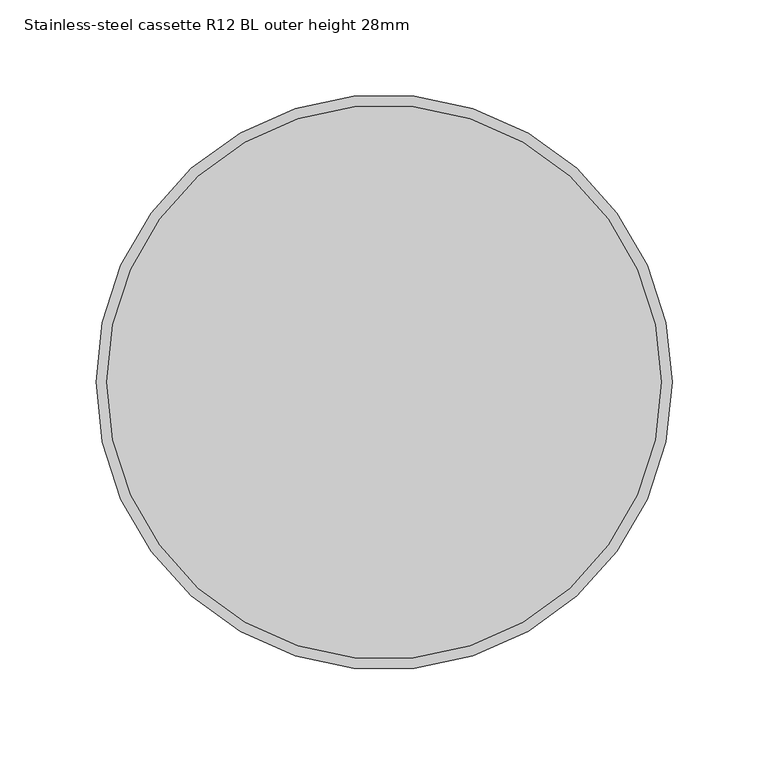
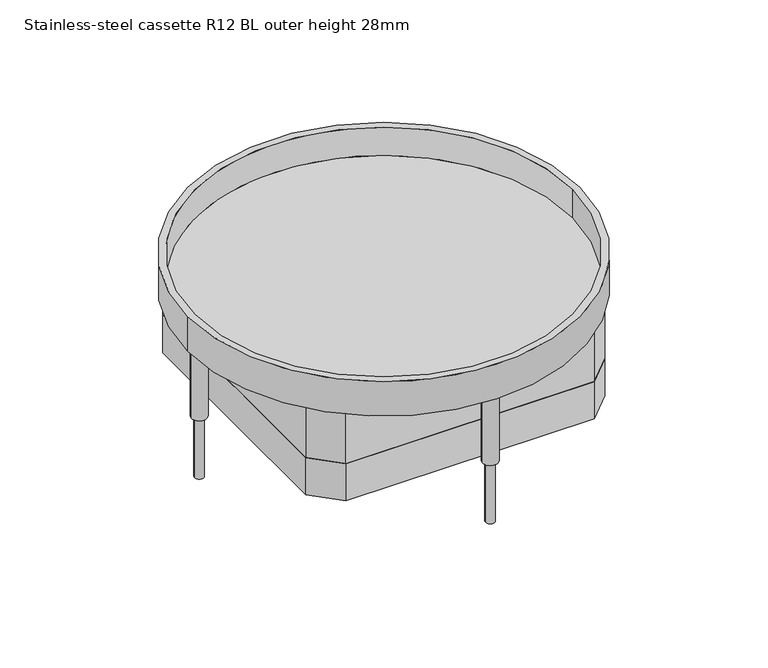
"""IFC4 building model written with IfcOpenShell, lengths in millimetres: proxy geometry, Electrical_Installation_Hager_VE-EE_EKR-Height-adjustable-stainless-steel-cassette-blank-round-for-damp-cleaned-floors : Stainless-steel cassette R12 BL outer height 28mm."""

from ifc_helpers import new_model, si_unit, point, frame, frame_2d, origin, place, context, project, spatial, polyline, circle_curve, trimmed, segment, composite_curve, outline, extrude, source, transform, mapped, element, save
from ifc_brep_helpers import plane_surface, cylinder_surface, revolved_surface, advanced_brep


def stainless_steel_cassette_r12_bl_outer_height_28mm_40ef087e(model_context):
    return source(origin(), model_context, "Body", "SolidModel", [
        extrude(outline(polyline([(-114.5, -94.9818914), (-114.5, 94.9818914), (-94.9818914, 114.5), (94.9818914, 114.5), (114.5, 94.9818914), (114.5, -94.9818914), (94.9818914, -114.5), (-94.9818914, -114.5), (-114.5, -94.9818914)]), holes=[polyline([(93.8602374, 111.5), (-93.8602374, 111.5), (-111.5, 93.8602374), (-111.5, -93.8602374), (-93.8602374, -111.5), (93.8602374, -111.5), (111.5, -93.8602374), (111.5, 93.8602374), (93.8602374, 111.5)])]), frame((0.0, 0.0, -96.9281369), z_axis=(0.0, 0.0, 1.0), x_axis=(1.0, 0.0, 0.0)), (0.0, 0.0, 1.0), 30.0),
        extrude(outline(composite_curve([segment(trimmed(circle_curve(frame_2d((-141.3, 0.0)), 3.5), [point((-144.8, 0.0))], [point((-137.8, 0.0))], False, "CARTESIAN"), True, "CONTINUOUS"), segment(trimmed(circle_curve(frame_2d((-141.3, 0.0)), 3.5), [point((-137.8, 0.0))], [point((-144.8, 0.0))], False, "CARTESIAN"), True, "CONTINUOUS")], self_intersect=False)), frame((0.0, 0.0, -130.0), z_axis=(0.0, 0.0, 1.0), x_axis=(1.0, 0.0, 0.0)), (0.0, 0.0, 1.0), 104.011943),
        extrude(outline(composite_curve([segment(trimmed(circle_curve(frame_2d((0.0, 141.3)), 3.5), [point((-3.5, 141.3))], [point((3.5, 141.3))], False, "CARTESIAN"), True, "CONTINUOUS"), segment(trimmed(circle_curve(frame_2d((0.0, 141.3)), 3.5), [point((3.5, 141.3))], [point((-3.5, 141.3))], False, "CARTESIAN"), True, "CONTINUOUS")], self_intersect=False)), frame((0.0, 0.0, -130.0), z_axis=(0.0, 0.0, 1.0), x_axis=(1.0, 0.0, 0.0)), (0.0, 0.0, 1.0), 104.011943),
        extrude(outline(composite_curve([segment(trimmed(circle_curve(frame_2d((141.3, 0.0)), 3.548869), [point((137.751131, 0.0))], [point((144.848869, 0.0))], False, "CARTESIAN"), True, "CONTINUOUS"), segment(trimmed(circle_curve(frame_2d((141.3, 0.0)), 3.548869), [point((144.848869, 0.0))], [point((137.751131, 0.0))], False, "CARTESIAN"), True, "CONTINUOUS")], self_intersect=False)), frame((0.0, 0.0, -130.0), z_axis=(0.0, 0.0, 1.0), x_axis=(1.0, 0.0, 0.0)), (0.0, 0.0, 1.0), 104.011943),
        extrude(outline(composite_curve([segment(trimmed(circle_curve(frame_2d((0.0, -141.3)), 3.5), [point((-3.5, -141.3))], [point((3.5, -141.3))], False, "CARTESIAN"), True, "CONTINUOUS"), segment(trimmed(circle_curve(frame_2d((0.0, -141.3)), 3.5), [point((3.5, -141.3))], [point((-3.5, -141.3))], False, "CARTESIAN"), True, "CONTINUOUS")], self_intersect=False)), frame((0.0, 0.0, -130.0), z_axis=(0.0, 0.0, 1.0), x_axis=(1.0, 0.0, 0.0)), (0.0, 0.0, 1.0), 104.011943),
        advanced_brep(
        [(144.5, 0.0, -20.988057), (-144.5, 0.0, -20.988057), (-150.0, 0.0, -25.988057), (150.0, 0.0, -25.988057), (-150.0, 0.0, 2.011943), (150.0, 0.0, 2.011943), (-144.5, 0.0, 2.011943), (144.5, 0.0, 2.011943)],
        [
            (0, 1, circle_curve(frame((0.0, 0.0, -20.988057), z_axis=(0.0, 0.0, 1.0), x_axis=(1.0, 0.0, 0.0)), 144.5)),
            (1, 0, circle_curve(frame((0.0, 0.0, -20.988057), z_axis=(0.0, 0.0, 1.0), x_axis=(1.0, 0.0, 0.0)), 144.5)),
            (2, 3, circle_curve(frame((0.0, 0.0, -25.988057), z_axis=(0.0, 0.0, -1.0), x_axis=(1.0, 0.0, 0.0)), 150.0)),
            (3, 2, circle_curve(frame((0.0, 0.0, -25.988057), z_axis=(0.0, 0.0, -1.0), x_axis=(1.0, 0.0, 0.0)), 150.0)),
            (4, 5, circle_curve(frame((0.0, 0.0, 2.011943), z_axis=(0.0, 0.0, 1.0), x_axis=(1.0, 0.0, 0.0)), 150.0)),
            (5, 4, circle_curve(frame((0.0, 0.0, 2.011943), z_axis=(0.0, 0.0, 1.0), x_axis=(1.0, 0.0, 0.0)), 150.0)),
            (6, 7, circle_curve(frame((0.0, 0.0, 2.011943), z_axis=(0.0, 0.0, -1.0), x_axis=(1.0, 0.0, 0.0)), 144.5)),
            (7, 6, circle_curve(frame((0.0, 0.0, 2.011943), z_axis=(0.0, 0.0, -1.0), x_axis=(1.0, 0.0, 0.0)), 144.5)),
            (4, 2),
            (3, 5),
            (6, 1),
            (0, 7),
        ],
        [
            plane_surface(frame((144.5, 0.0, -20.988057), z_axis=(0.0, 0.0, 1.0), x_axis=(0.0, 1.0, 0.0))),
            plane_surface(frame((144.5, 0.0, -25.988057), z_axis=(0.0, 0.0, -1.0), x_axis=(0.0, -1.0, 0.0))),
            plane_surface(frame((150.0, 0.0, 2.011943), z_axis=(0.0, 0.0, 1.0), x_axis=(0.0, 1.0, 0.0))),
            cylinder_surface(frame((0.0, 0.0, -25.988057), z_axis=(0.0, 0.0, 1.0), x_axis=(1.0, 0.0, 0.0)), 150.0),
            revolved_surface(polyline([(144.5, 0.0, -20.988057), (144.5, 0.0, 2.011943)]), (0.0, 0.0, 0.0), (0.0, 0.0, -1.0)),
        ],
        [
            (0, [[1, 2]]),
            (1, [[3, 4]]),
            (2, [[5, 6], [7, 8]]),
            (3, [[-5, 9, -4, 10]]),
            (3, [[-6, -10, -3, -9]]),
            (4, [[-7, 11, -1, 12]]),
            (4, [[-8, -12, -2, -11]]),
        ],
    ),
        extrude(outline(polyline([(94.9818914, 114.5), (114.5, 94.9818914), (114.5, -94.9818914), (94.9818914, -114.5), (-94.9818914, -114.5), (-114.5, -94.9818914), (-114.5, 94.9818914), (-94.9818914, 114.5), (94.9818914, 114.5)]), holes=[polyline([(-111.5, 93.8602374), (-111.5, -93.8602374), (-93.8602374, -111.5), (93.8602374, -111.5), (111.5, -93.8602374), (111.5, 93.8602374), (93.8602374, 111.5), (-93.8602374, 111.5), (-111.5, 93.8602374)])]), frame((0.0, 0.0, -66.9281369), z_axis=(0.0, 0.0, 1.0), x_axis=(1.0, 0.0, 0.0)), (0.0, 0.0, 1.0), 40.9400799),
        extrude(outline(composite_curve([segment(trimmed(circle_curve(frame_2d((0.0, 141.3)), 5.9738904), [point((-5.9738904, 141.3))], [point((5.9738904, 141.3))], False, "CARTESIAN"), True, "CONTINUOUS"), segment(trimmed(circle_curve(frame_2d((0.0, 141.3)), 5.9738904), [point((5.9738904, 141.3))], [point((-5.9738904, 141.3))], False, "CARTESIAN"), True, "CONTINUOUS")], self_intersect=False)), frame((0.0, 0.0, -81.0371838), z_axis=(0.0, 0.0, 1.0), x_axis=(1.0, 0.0, 0.0)), (0.0, 0.0, 1.0), 55.0491267),
        extrude(outline(composite_curve([segment(trimmed(circle_curve(frame_2d((141.3, 0.0)), 6.0), [point((135.3, 0.0))], [point((147.3, 0.0))], False, "CARTESIAN"), True, "CONTINUOUS"), segment(trimmed(circle_curve(frame_2d((141.3, 0.0)), 6.0), [point((147.3, 0.0))], [point((135.3, 0.0))], False, "CARTESIAN"), True, "CONTINUOUS")], self_intersect=False)), frame((0.0, 0.0, -81.0371838), z_axis=(0.0, 0.0, 1.0), x_axis=(1.0, 0.0, 0.0)), (0.0, 0.0, 1.0), 55.0491267),
        extrude(outline(composite_curve([segment(trimmed(circle_curve(frame_2d((0.0, -141.3)), 6.0), [point((-6.0, -141.3))], [point((6.0, -141.3))], False, "CARTESIAN"), True, "CONTINUOUS"), segment(trimmed(circle_curve(frame_2d((0.0, -141.3)), 6.0), [point((6.0, -141.3))], [point((-6.0, -141.3))], False, "CARTESIAN"), True, "CONTINUOUS")], self_intersect=False)), frame((0.0, 0.0, -81.0371838), z_axis=(0.0, 0.0, 1.0), x_axis=(1.0, 0.0, 0.0)), (0.0, 0.0, 1.0), 55.0491267),
        extrude(outline(composite_curve([segment(trimmed(circle_curve(frame_2d((-141.3, 0.0)), 6.0), [point((-147.3, 0.0))], [point((-135.3, 0.0))], False, "CARTESIAN"), True, "CONTINUOUS"), segment(trimmed(circle_curve(frame_2d((-141.3, 0.0)), 6.0), [point((-135.3, 0.0))], [point((-147.3, 0.0))], False, "CARTESIAN"), True, "CONTINUOUS")], self_intersect=False)), frame((0.0, 0.0, -81.0371838), z_axis=(0.0, 0.0, 1.0), x_axis=(1.0, 0.0, 0.0)), (0.0, 0.0, 1.0), 55.0491267),
    ])


if __name__ == "__main__":
    model = new_model("IFC4")
    model_context = context("Model", 3, world=origin())
    ifc_project = project(units=[si_unit("LENGTHUNIT", "METRE", prefix="MILLI")], contexts=[model_context])
    site = spatial("IfcSite", under=ifc_project)
    building = spatial("IfcBuilding", under=site)
    placement = place(None, origin())
    stainless_steel_cassette_r12_bl_outer_height_28mm_shape = stainless_steel_cassette_r12_bl_outer_height_28mm_40ef087e(model_context)
    element("IfcBuildingElementProxy", 1, Name="Electrical_Installation_Hager_VE-EE_EKR-Height-adjustable-stainless-steel-cassette-blank-round-for-damp-cleaned-floors : Stainless-steel cassette R12 BL outer height 28mm", ObjectType="Electrical_Installation_Hager_VE-EE_EKR-Height-adjustable-stainless-steel-cassette-blank-round-for-damp-cleaned-floors : Stainless-steel cassette R12 BL outer height 28mm", at=placement, inside=building, context=model_context, shape_type="MappedRepresentation", body=[
        mapped(stainless_steel_cassette_r12_bl_outer_height_28mm_shape, transform((0.0, 0.0, 0.0), x_axis=(1.0, 0.0, 0.0), y_axis=(0.0, 1.0, 0.0), z_axis=(0.0, 0.0, 1.0))),
    ])
    save(model, "model.ifc")
